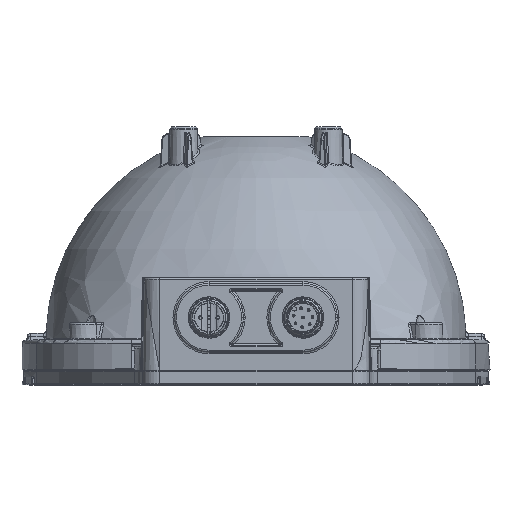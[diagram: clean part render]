
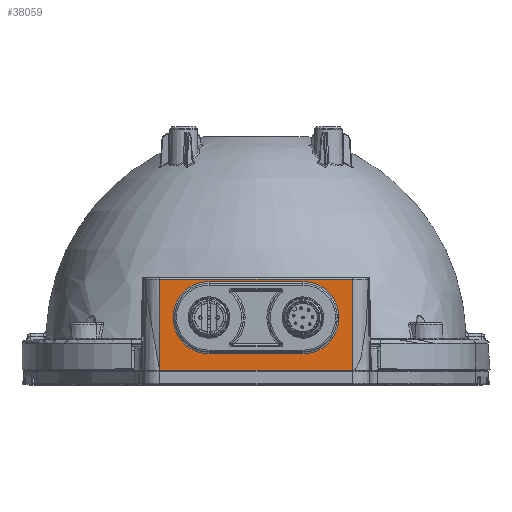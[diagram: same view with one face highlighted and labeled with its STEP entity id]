
A CAD part, top view. The second image highlights one B-rep face of the part: STEP entity #38059.
In plain terms, the highlighted planar face has unit normal (0, 0, 1).
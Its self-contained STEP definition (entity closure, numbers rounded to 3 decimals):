
#1995 = ORIENTED_EDGE ( 'NONE', *, *, #75709, .T. ) ;
#2331 = EDGE_LOOP ( 'NONE', ( #27054, #11979, #7651, #1995 ) ) ;
#3156 = LINE ( 'NONE', #65947, #52288 ) ;
#4074 = EDGE_CURVE ( 'NONE', #40191, #18452, #36987, .T. ) ;
#4238 = ORIENTED_EDGE ( 'NONE', *, *, #4074, .T. ) ;
#7651 = ORIENTED_EDGE ( 'NONE', *, *, #51934, .F. ) ;
#9356 = DIRECTION ( 'NONE',  ( 0., 0., -1. ) ) ;
#9934 = CARTESIAN_POINT ( 'NONE',  ( 40.263, 141.953, 241.365 ) ) ;
#10575 = DIRECTION ( 'NONE',  ( 0., 0., -1. ) ) ;
#11979 = ORIENTED_EDGE ( 'NONE', *, *, #59169, .T. ) ;
#12626 = DIRECTION ( 'NONE',  ( 0., 1., 0. ) ) ;
#12836 = DIRECTION ( 'NONE',  ( 0., 1., 0. ) ) ;
#14195 = VERTEX_POINT ( 'NONE', #36943 ) ;
#16362 = DIRECTION ( 'NONE',  ( 0., 0., 1. ) ) ;
#17238 = DIRECTION ( 'NONE',  ( 1., 0., 0. ) ) ;
#18452 = VERTEX_POINT ( 'NONE', #82352 ) ;
#21795 = AXIS2_PLACEMENT_3D ( 'NONE', #79703, #24315, #88948 ) ;
#23169 = EDGE_CURVE ( 'NONE', #29660, #58814, #27089, .T. ) ;
#24315 = DIRECTION ( 'NONE',  ( 0., 0., -1. ) ) ;
#24592 = EDGE_CURVE ( 'NONE', #62387, #119288, #94779, .T. ) ;
#26690 = AXIS2_PLACEMENT_3D ( 'NONE', #117645, #16362, #80944 ) ;
#27054 = ORIENTED_EDGE ( 'NONE', *, *, #24592, .T. ) ;
#27089 = CIRCLE ( 'NONE', #69589, 10.491 ) ;
#29660 = VERTEX_POINT ( 'NONE', #101562 ) ;
#30040 = CARTESIAN_POINT ( 'NONE',  ( 81.913, 142.641, 241.365 ) ) ;
#33520 = ORIENTED_EDGE ( 'NONE', *, *, #57697, .T. ) ;
#34399 = CARTESIAN_POINT ( 'NONE',  ( 25.913, 142.641, 241.365 ) ) ;
#36943 = CARTESIAN_POINT ( 'NONE',  ( 25.913, 142.641, 241.365 ) ) ;
#36987 = CIRCLE ( 'NONE', #21795, 10.491 ) ;
#38059 = ADVANCED_FACE ( 'NONE', ( #69738, #48065 ), #89808, .T. ) ;
#40062 = LINE ( 'NONE', #56946, #74688 ) ;
#40191 = VERTEX_POINT ( 'NONE', #92340 ) ;
#42555 = VECTOR ( 'NONE', #17238, 1000. ) ;
#47644 = DIRECTION ( 'NONE',  ( -1., 0., 0. ) ) ;
#48065 = FACE_OUTER_BOUND ( 'NONE', #2331, .T. ) ;
#49826 = CARTESIAN_POINT ( 'NONE',  ( 81.913, 116.111, 241.365 ) ) ;
#51389 = CARTESIAN_POINT ( 'NONE',  ( 67.563, 120.97, 241.365 ) ) ;
#51505 = VECTOR ( 'NONE', #12626, 1000. ) ;
#51934 = EDGE_CURVE ( 'NONE', #94239, #14195, #78797, .T. ) ;
#52288 = VECTOR ( 'NONE', #92909, 1000. ) ;
#56946 = CARTESIAN_POINT ( 'NONE',  ( 40.263, 120.97, 241.365 ) ) ;
#57185 = EDGE_LOOP ( 'NONE', ( #65978, #4238, #33520, #70463, #75964 ) ) ;
#57697 = EDGE_CURVE ( 'NONE', #18452, #109701, #93181, .T. ) ;
#58814 = VERTEX_POINT ( 'NONE', #9934 ) ;
#59169 = EDGE_CURVE ( 'NONE', #119288, #14195, #84294, .T. ) ;
#62387 = VERTEX_POINT ( 'NONE', #110382 ) ;
#64674 = CARTESIAN_POINT ( 'NONE',  ( 67.563, 131.461, 241.365 ) ) ;
#65899 = CARTESIAN_POINT ( 'NONE',  ( 40.263, 131.461, 241.365 ) ) ;
#65947 = CARTESIAN_POINT ( 'NONE',  ( 53.913, 116.111, 241.365 ) ) ;
#65978 = ORIENTED_EDGE ( 'NONE', *, *, #108397, .T. ) ;
#69589 = AXIS2_PLACEMENT_3D ( 'NONE', #65899, #10575, #75133 ) ;
#69738 = FACE_BOUND ( 'NONE', #57185, .T. ) ;
#70463 = ORIENTED_EDGE ( 'NONE', *, *, #71478, .T. ) ;
#71478 = EDGE_CURVE ( 'NONE', #109701, #29660, #40062, .T. ) ;
#73943 = DIRECTION ( 'NONE',  ( 1., 0., 0. ) ) ;
#74688 = VECTOR ( 'NONE', #47644, 1000. ) ;
#75133 = DIRECTION ( 'NONE',  ( 1., 0., 0. ) ) ;
#75709 = EDGE_CURVE ( 'NONE', #94239, #62387, #3156, .T. ) ;
#75964 = ORIENTED_EDGE ( 'NONE', *, *, #23169, .T. ) ;
#78797 = LINE ( 'NONE', #114117, #100433 ) ;
#79703 = CARTESIAN_POINT ( 'NONE',  ( 67.563, 131.461, 241.365 ) ) ;
#80944 = DIRECTION ( 'NONE',  ( 1., 0., 0. ) ) ;
#81384 = VECTOR ( 'NONE', #89682, 1000. ) ;
#82352 = CARTESIAN_POINT ( 'NONE',  ( 78.054, 131.461, 241.365 ) ) ;
#84294 = LINE ( 'NONE', #34399, #81384 ) ;
#86431 = AXIS2_PLACEMENT_3D ( 'NONE', #64674, #9356, #73943 ) ;
#88476 = CARTESIAN_POINT ( 'NONE',  ( 25.913, 116.111, 241.365 ) ) ;
#88948 = DIRECTION ( 'NONE',  ( 1., 0., 0. ) ) ;
#89682 = DIRECTION ( 'NONE',  ( -1., 0., 0. ) ) ;
#89808 = PLANE ( 'NONE',  #26690 ) ;
#91602 = LINE ( 'NONE', #119345, #42555 ) ;
#92340 = CARTESIAN_POINT ( 'NONE',  ( 67.563, 141.953, 241.365 ) ) ;
#92909 = DIRECTION ( 'NONE',  ( 1., 0., 0. ) ) ;
#93181 = CIRCLE ( 'NONE', #86431, 10.491 ) ;
#94239 = VERTEX_POINT ( 'NONE', #88476 ) ;
#94779 = LINE ( 'NONE', #49826, #51505 ) ;
#100433 = VECTOR ( 'NONE', #12836, 1000. ) ;
#101562 = CARTESIAN_POINT ( 'NONE',  ( 40.263, 120.97, 241.365 ) ) ;
#108397 = EDGE_CURVE ( 'NONE', #58814, #40191, #91602, .T. ) ;
#109701 = VERTEX_POINT ( 'NONE', #51389 ) ;
#110382 = CARTESIAN_POINT ( 'NONE',  ( 81.913, 116.111, 241.365 ) ) ;
#114117 = CARTESIAN_POINT ( 'NONE',  ( 25.913, 116.111, 241.365 ) ) ;
#117645 = CARTESIAN_POINT ( 'NONE',  ( 25.913, 116.111, 241.365 ) ) ;
#119288 = VERTEX_POINT ( 'NONE', #30040 ) ;
#119345 = CARTESIAN_POINT ( 'NONE',  ( 67.563, 141.953, 241.365 ) ) ;
